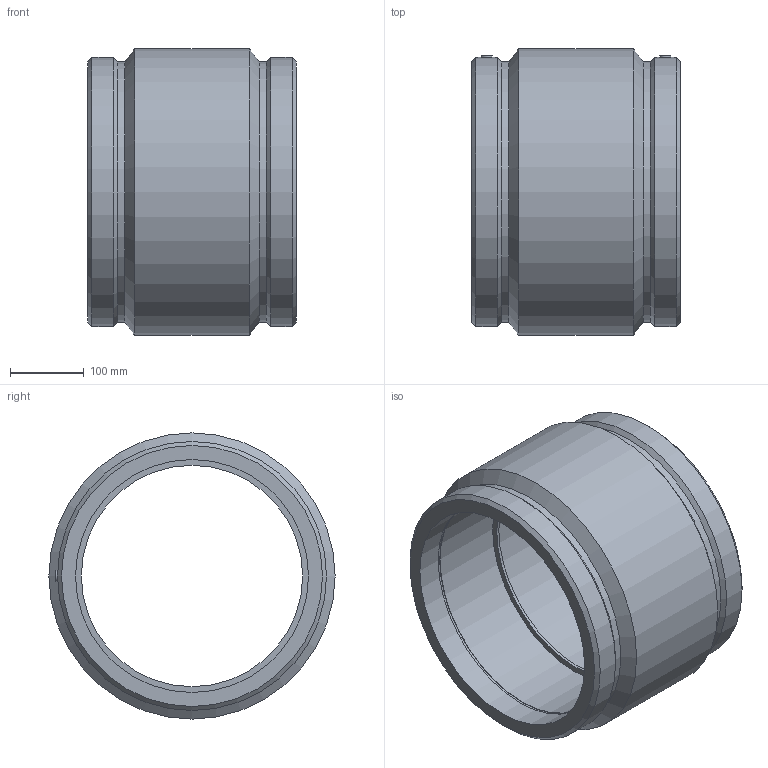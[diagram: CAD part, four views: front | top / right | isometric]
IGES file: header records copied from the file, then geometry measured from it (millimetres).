
Global section: file name: 490104315.ipt; native system: Autodesk Inventor 2015; preprocessor: unknown; author: KIM; date: 20190124.130106; units: millimetre
Bounding box: 282 x 387 x 387 mm (x, y, z)
Volume: 9387127.1 mm3; surface area: 699606 mm2
Topology: 1 solids, 1 shells, 36 faces, 80 edges, 54 vertices
Faces by surface type: plane 12, revolution 9, cone 8, cylinder 7
Full cylindrical faces by diameter (mm): 4 x2, 352.867 x2, 363.78 x2, 387 x1
